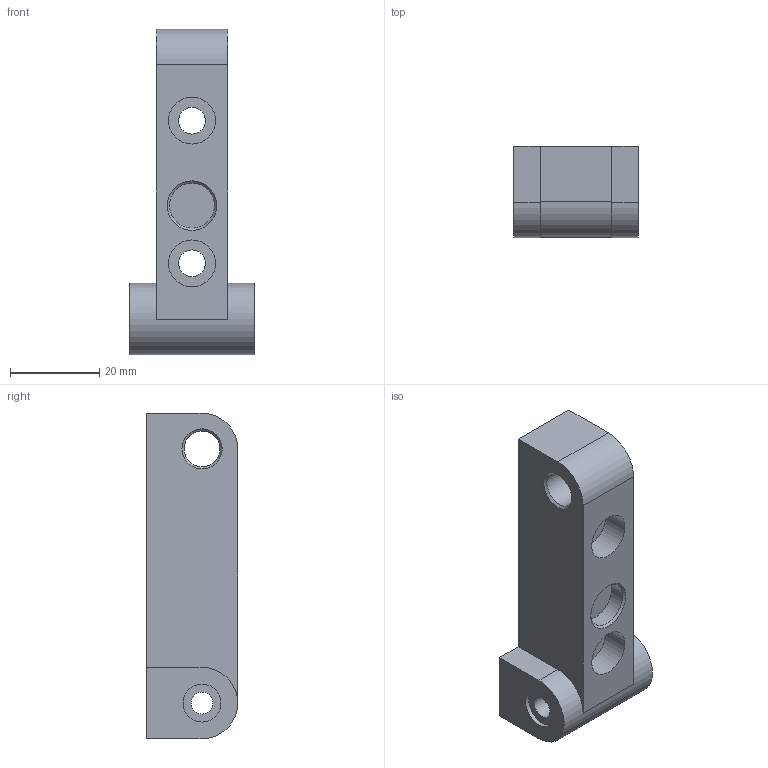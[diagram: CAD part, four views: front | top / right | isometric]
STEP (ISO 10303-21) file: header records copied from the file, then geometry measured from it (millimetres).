
FILE_DESCRIPTION(/* description */ (''),/* implementation_level */ '2;1');
FILE_NAME(/* name */ 'C:\Users\Nicholas Foo\Google Drive\Hari''s Mobility Solution\Design documents\P1\STEP\Mount_LockingMechanism.stp',/* time_stamp */ '2018-01-29T10:06:19+08:00',/* author */ ('NicK Foo'),/* organization */ (''),/* preprocessor_version */ 'ST-DEVELOPER v17',/* originating_system */ 'Autodesk Inventor 2018',/* authorisation */ '');
FILE_SCHEMA (('AUTOMOTIVE_DESIGN { 1 0 10303 214 3 1 1 }'));
Length unit declared in the file: millimetre
Products named in the file (1): Mount_LockingMechanism
Bounding box: 28 x 20.5 x 73 mm (x, y, z)
Volume: 23509.3 mm3; surface area: 8265.7 mm2
Topology: 1 solids, 1 shells, 29 faces, 72 edges, 50 vertices
Faces by surface type: plane 15, cylinder 11, cone 3
Full cylindrical faces by diameter (mm): 4.917 x1, 6 x2, 8 x1, 8.5 x2, 10.1 x1, 10.5 x2
Entity records: 945 total; most frequent: DIRECTION 168, CARTESIAN_POINT 152, ORIENTED_EDGE 144, EDGE_CURVE 72, AXIS2_PLACEMENT_3D 66, VERTEX_POINT 50, EDGE_LOOP 42, LINE 36
